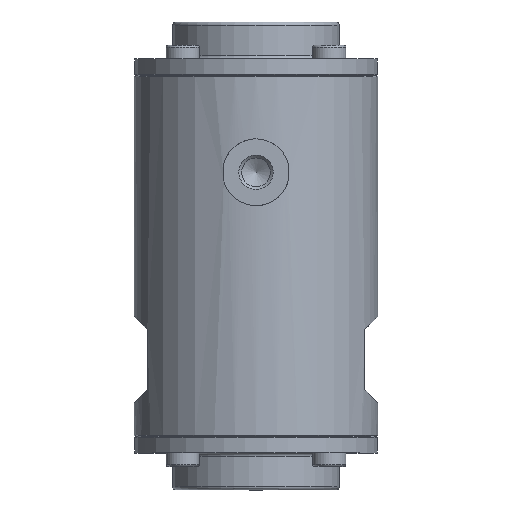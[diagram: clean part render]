
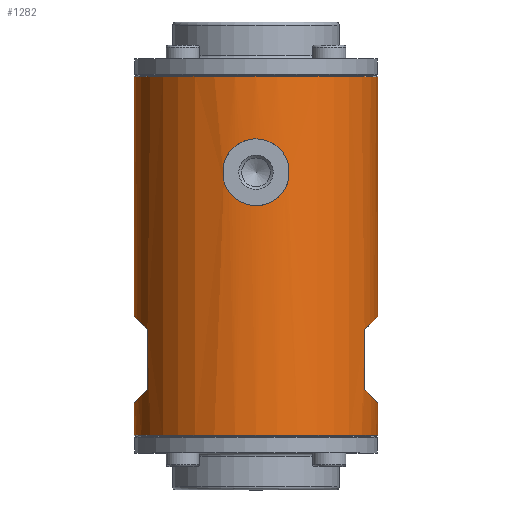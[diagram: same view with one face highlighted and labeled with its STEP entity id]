
A CAD part, top view. The second image highlights one B-rep face of the part: STEP entity #1282.
In plain terms, the highlighted cylindrical face has radius 36.5 mm (diameter 73 mm), a full revolution.
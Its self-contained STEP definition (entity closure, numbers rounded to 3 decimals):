
#31=B_SPLINE_CURVE_WITH_KNOTS('',3,(#6234,#6235,#6236,#6237,#6238,#6239,
#6240,#6241,#6242,#6243),.UNSPECIFIED.,.F.,.F.,(4,2,2,2,4),(0.,0.25,0.5,
0.75,1.),.UNSPECIFIED.);
#32=B_SPLINE_CURVE_WITH_KNOTS('',3,(#6248,#6249,#6250,#6251,#6252,#6253,
#6254,#6255,#6256,#6257),.UNSPECIFIED.,.F.,.F.,(4,2,2,2,4),(0.,0.25,0.5,
0.75,1.),.UNSPECIFIED.);
#33=ELLIPSE('',#4223,51.619,36.5);
#34=ELLIPSE('',#4224,51.619,36.5);
#35=ELLIPSE('',#4225,51.619,36.5);
#36=ELLIPSE('',#4226,51.619,36.5);
#155=LINE('',#6218,#309);
#156=LINE('',#6223,#310);
#157=LINE('',#6226,#311);
#158=LINE('',#6231,#312);
#159=LINE('',#6246,#313);
#160=LINE('',#6259,#314);
#309=VECTOR('',#5135,1.);
#310=VECTOR('',#5138,1.);
#311=VECTOR('',#5141,1.);
#312=VECTOR('',#5144,1.);
#313=VECTOR('',#5147,1.);
#314=VECTOR('',#5148,1.);
#646=CYLINDRICAL_SURFACE('',#4227,36.5);
#931=FACE_BOUND('',#1927,.T.);
#932=FACE_BOUND('',#1928,.T.);
#933=FACE_BOUND('',#1929,.T.);
#934=FACE_BOUND('',#1930,.T.);
#935=FACE_BOUND('',#1931,.T.);
#1282=ADVANCED_FACE('',(#931,#932,#933,#934,#935),#646,.T.);
#1927=EDGE_LOOP('',(#2577));
#1928=EDGE_LOOP('',(#2578));
#1929=EDGE_LOOP('',(#2579,#2580,#2581,#2582));
#1930=EDGE_LOOP('',(#2583,#2584,#2585,#2586));
#1931=EDGE_LOOP('',(#2587,#2588,#2589,#2590));
#2577=ORIENTED_EDGE('',*,*,#3454,.F.);
#2578=ORIENTED_EDGE('',*,*,#3455,.T.);
#2579=ORIENTED_EDGE('',*,*,#3456,.F.);
#2580=ORIENTED_EDGE('',*,*,#3457,.F.);
#2581=ORIENTED_EDGE('',*,*,#3458,.F.);
#2582=ORIENTED_EDGE('',*,*,#3459,.F.);
#2583=ORIENTED_EDGE('',*,*,#3460,.F.);
#2584=ORIENTED_EDGE('',*,*,#3461,.F.);
#2585=ORIENTED_EDGE('',*,*,#3462,.F.);
#2586=ORIENTED_EDGE('',*,*,#3463,.F.);
#2587=ORIENTED_EDGE('',*,*,#3464,.T.);
#2588=ORIENTED_EDGE('',*,*,#3465,.T.);
#2589=ORIENTED_EDGE('',*,*,#3466,.T.);
#2590=ORIENTED_EDGE('',*,*,#3467,.T.);
#3090=VERTEX_POINT('',#6215);
#3091=VERTEX_POINT('',#6217);
#3092=VERTEX_POINT('',#6219);
#3093=VERTEX_POINT('',#6220);
#3094=VERTEX_POINT('',#6222);
#3095=VERTEX_POINT('',#6224);
#3096=VERTEX_POINT('',#6227);
#3097=VERTEX_POINT('',#6228);
#3098=VERTEX_POINT('',#6230);
#3099=VERTEX_POINT('',#6232);
#3100=VERTEX_POINT('',#6244);
#3101=VERTEX_POINT('',#6245);
#3102=VERTEX_POINT('',#6247);
#3103=VERTEX_POINT('',#6258);
#3454=EDGE_CURVE('',#3090,#3090,#3831,.T.);
#3455=EDGE_CURVE('',#3091,#3091,#3832,.T.);
#3456=EDGE_CURVE('',#3092,#3093,#155,.T.);
#3457=EDGE_CURVE('',#3094,#3092,#33,.T.);
#3458=EDGE_CURVE('',#3095,#3094,#156,.T.);
#3459=EDGE_CURVE('',#3093,#3095,#34,.T.);
#3460=EDGE_CURVE('',#3096,#3097,#157,.T.);
#3461=EDGE_CURVE('',#3098,#3096,#35,.T.);
#3462=EDGE_CURVE('',#3099,#3098,#158,.T.);
#3463=EDGE_CURVE('',#3097,#3099,#36,.T.);
#3464=EDGE_CURVE('',#3100,#3101,#31,.T.);
#3465=EDGE_CURVE('',#3101,#3102,#159,.T.);
#3466=EDGE_CURVE('',#3102,#3103,#32,.T.);
#3467=EDGE_CURVE('',#3103,#3100,#160,.T.);
#3831=CIRCLE('',#4221,36.5);
#3832=CIRCLE('',#4222,36.5);
#4221=AXIS2_PLACEMENT_3D('',#6214,#5131,#5132);
#4222=AXIS2_PLACEMENT_3D('',#6216,#5133,#5134);
#4223=AXIS2_PLACEMENT_3D('',#6221,#5136,#5137);
#4224=AXIS2_PLACEMENT_3D('',#6225,#5139,#5140);
#4225=AXIS2_PLACEMENT_3D('',#6229,#5142,#5143);
#4226=AXIS2_PLACEMENT_3D('',#6233,#5145,#5146);
#4227=AXIS2_PLACEMENT_3D('',#6260,#5149,#5150);
#5131=DIRECTION('',(0.,-1.,0.));
#5132=DIRECTION('',(0.,0.,1.));
#5133=DIRECTION('',(0.,-1.,0.));
#5134=DIRECTION('',(0.,0.,1.));
#5135=DIRECTION('',(0.,-1.,0.));
#5136=DIRECTION('',(0.707,-0.707,0.));
#5137=DIRECTION('',(0.707,0.707,0.));
#5138=DIRECTION('',(0.,1.,0.));
#5139=DIRECTION('',(0.707,0.707,0.));
#5140=DIRECTION('',(-0.707,0.707,0.));
#5141=DIRECTION('',(0.,-1.,0.));
#5142=DIRECTION('',(-0.707,-0.707,0.));
#5143=DIRECTION('',(-0.707,0.707,0.));
#5144=DIRECTION('',(0.,1.,0.));
#5145=DIRECTION('',(-0.707,0.707,0.));
#5146=DIRECTION('',(0.707,0.707,0.));
#5147=DIRECTION('',(0.,-1.,0.));
#5148=DIRECTION('',(0.,1.,0.));
#5149=DIRECTION('',(0.,1.,0.));
#5150=DIRECTION('',(0.,0.,1.));
#6214=CARTESIAN_POINT('',(0.,-38.7,0.));
#6215=CARTESIAN_POINT('',(0.,-38.7,36.5));
#6216=CARTESIAN_POINT('',(0.,68.7,0.));
#6217=CARTESIAN_POINT('',(0.,68.7,36.5));
#6218=CARTESIAN_POINT('',(32.5,15.,16.613));
#6219=CARTESIAN_POINT('',(32.5,-7.,16.613));
#6220=CARTESIAN_POINT('',(32.5,-25.,16.613));
#6221=CARTESIAN_POINT('',(0.,-39.5,0.));
#6222=CARTESIAN_POINT('',(32.5,-7.,-16.613));
#6223=CARTESIAN_POINT('',(32.5,15.,-16.613));
#6224=CARTESIAN_POINT('',(32.5,-25.,-16.613));
#6225=CARTESIAN_POINT('',(0.,7.5,0.));
#6226=CARTESIAN_POINT('',(-32.5,15.,-16.613));
#6227=CARTESIAN_POINT('',(-32.5,-7.,-16.613));
#6228=CARTESIAN_POINT('',(-32.5,-25.,-16.613));
#6229=CARTESIAN_POINT('',(0.,-39.5,0.));
#6230=CARTESIAN_POINT('',(-32.5,-7.,16.613));
#6231=CARTESIAN_POINT('',(-32.5,15.,16.613));
#6232=CARTESIAN_POINT('',(-32.5,-25.,16.613));
#6233=CARTESIAN_POINT('',(0.,7.5,0.));
#6234=CARTESIAN_POINT('',(-9.655,42.606,35.2));
#6235=CARTESIAN_POINT('',(-9.08,44.736,35.358));
#6236=CARTESIAN_POINT('',(-7.825,46.599,35.695));
#6237=CARTESIAN_POINT('',(-4.361,49.26,36.281));
#6238=CARTESIAN_POINT('',(-2.206,49.998,36.499));
#6239=CARTESIAN_POINT('',(2.187,50.002,36.501));
#6240=CARTESIAN_POINT('',(4.353,49.262,36.282));
#6241=CARTESIAN_POINT('',(7.812,46.612,35.697));
#6242=CARTESIAN_POINT('',(9.08,44.735,35.358));
#6243=CARTESIAN_POINT('',(9.655,42.606,35.2));
#6244=CARTESIAN_POINT('',(-9.655,42.606,35.2));
#6245=CARTESIAN_POINT('',(9.655,42.606,35.2));
#6246=CARTESIAN_POINT('',(9.655,15.,35.2));
#6247=CARTESIAN_POINT('',(9.655,37.394,35.2));
#6248=CARTESIAN_POINT('',(9.655,37.394,35.2));
#6249=CARTESIAN_POINT('',(9.08,35.264,35.358));
#6250=CARTESIAN_POINT('',(7.825,33.401,35.695));
#6251=CARTESIAN_POINT('',(4.361,30.74,36.281));
#6252=CARTESIAN_POINT('',(2.206,30.002,36.499));
#6253=CARTESIAN_POINT('',(-2.187,29.998,36.501));
#6254=CARTESIAN_POINT('',(-4.353,30.738,36.282));
#6255=CARTESIAN_POINT('',(-7.812,33.388,35.697));
#6256=CARTESIAN_POINT('',(-9.08,35.265,35.358));
#6257=CARTESIAN_POINT('',(-9.655,37.394,35.2));
#6258=CARTESIAN_POINT('',(-9.655,37.394,35.2));
#6259=CARTESIAN_POINT('',(-9.655,15.,35.2));
#6260=CARTESIAN_POINT('',(0.,15.,0.));
